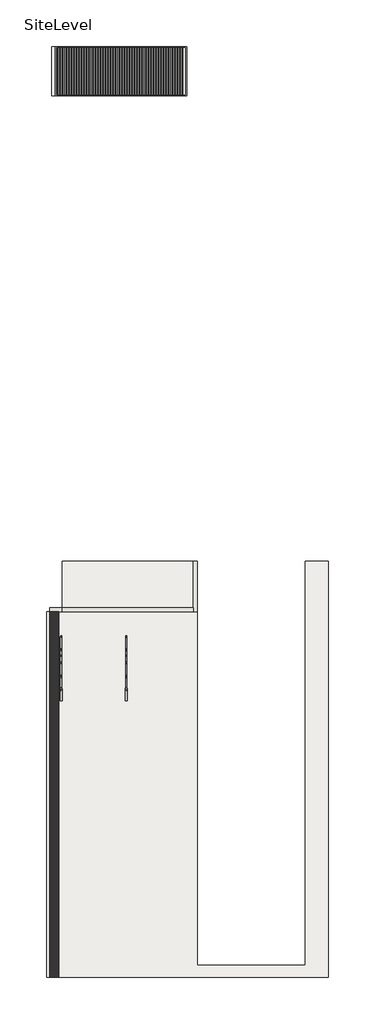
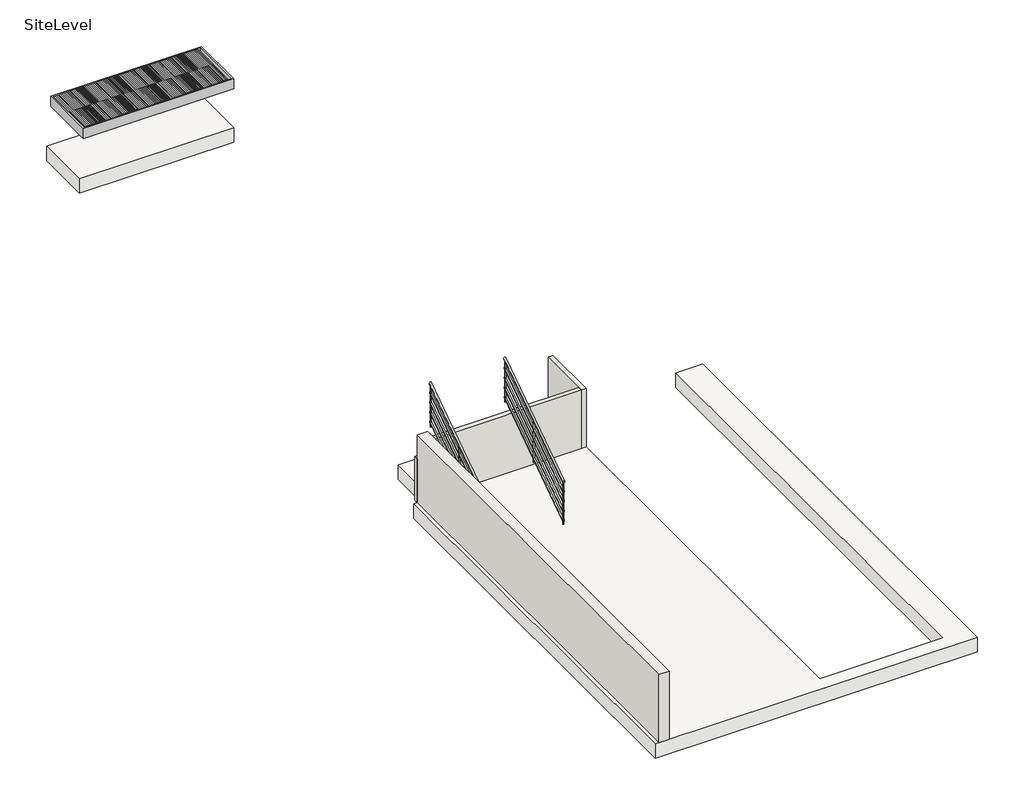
# One storey: 3 walls, 2 railings, 2 slabs, 1 proxy.
"""IFC4 building model written with IfcOpenShell, lengths in millimetres."""

from ifc_helpers import new_model, si_unit, frame, origin, place, context, project, spatial, polyline, outline, extrude, faceted_brep, transform, mapped, element, save
from components import griglia_griglia_b5ae9a58, railing_900mm_pipe_00ef5cd5, railing_900mm_pipe_c575d317

model = new_model("IFC4")

# Units and contexts
model_context = context("Model", 3, world=origin())
ifc_project = project(units=[si_unit("LENGTHUNIT", "METRE", prefix="MILLI")], contexts=[model_context])

# Site, building, storey
site = spatial("IfcSite", under=ifc_project)
building = spatial("IfcBuilding", under=site)
storey = spatial("IfcBuildingStorey", under=building, Name="SiteLevel", Elevation=-1500.0)

# Proxy
placement = place(None, origin())
griglia_griglia_shape = griglia_griglia_b5ae9a58(model_context)
element("IfcBuildingElementProxy", 1, Name="Griglia : Griglia", ObjectType="Griglia : Griglia", at=placement, inside=storey, context=model_context, shape_type="MappedRepresentation", body=[
    mapped(griglia_griglia_shape, transform((0.0, 0.0, 0.0), x_axis=(1.0, 0.0, 0.0), y_axis=(0.0, 1.0, 0.0), z_axis=(0.0, 0.0, 1.0))),
])

# Railings
railing_900mm_pipe_shape = railing_900mm_pipe_00ef5cd5(model_context)
element("IfcRailing", 2, ObjectType="900mm Pipe", at=placement, inside=storey, context=model_context, shape_type="MappedRepresentation", body=[
    mapped(railing_900mm_pipe_shape, transform((0.0, 0.0, 0.0), x_axis=(1.0, 0.0, 0.0), y_axis=(0.0, 1.0, 0.0), z_axis=(0.0, 0.0, 1.0))),
])
railing_900mm_pipe_2_shape = railing_900mm_pipe_c575d317(model_context)
element("IfcRailing", 3, ObjectType="900mm Pipe", at=placement, inside=storey, context=model_context, shape_type="MappedRepresentation", body=[
    mapped(railing_900mm_pipe_2_shape, transform((0.0, 0.0, 0.0), x_axis=(1.0, 0.0, 0.0), y_axis=(0.0, 1.0, 0.0), z_axis=(0.0, 0.0, 1.0))),
])

# Slabs
element("IfcSlab", 4, ObjectType="Generic 300mm", at=placement, inside=storey, context=model_context, shape_type="Brep", body=[
    faceted_brep([(-8133.3266822, -15042.8878347, -1800.0), (-8133.3266822, -6901.7671527, -1800.0), (-7783.3266822, -6901.7671527, -1800.0), (-7783.3266822, -5776.7671527, -1800.0), (-4979.3266822, -5776.7671527, -1800.0), (-4779.3266822, -5776.7671527, -1800.0), (-4779.3266822, -14776.7671527, -1800.0), (-2379.3266822, -14776.7671527, -1800.0), (-2379.3266822, -5776.7671527, -1800.0), (-2179.3266822, -5776.7671527, -1800.0), (-1861.8266822, -5776.7671527, -1800.0), (-1861.8266822, -15042.8878347, -1800.0), (-8133.3266822, -15042.8878347, -1500.0), (-1861.8266822, -15042.8878347, -1500.0), (-1861.8266822, -5776.7671527, -1500.0), (-2379.3266822, -5776.7671527, -1500.0), (-2379.3266822, -14776.7671527, -1500.0), (-4779.3266822, -14776.7671527, -1500.0), (-4779.3266822, -6901.7671527, -1500.0), (-4779.3266822, -5776.7671527, -1500.0), (-4869.3266822, -5776.7671527, -1500.0), (-7783.3266822, -5776.7671527, -1500.0), (-7783.3266822, -6901.7671527, -1500.0), (-8133.3266822, -6901.7671527, -1500.0)], [[[0, 1, 2, 3, 4, 5, 6, 7, 8, 9, 10, 11]], [[12, 13, 14, 15, 16, 17, 18, 19, 20, 21, 22, 23]], [[1, 0, 12, 23]], [[2, 1, 23, 22]], [[3, 2, 22, 21]], [[5, 4, 3, 21, 20, 19]], [[6, 5, 19, 18, 17]], [[7, 6, 17, 16]], [[8, 7, 16, 15]], [[10, 9, 8, 15, 14]], [[11, 10, 14, 13]], [[0, 11, 13, 12]]]),
])
element("IfcSlab", 5, ObjectType="Generic 300mm", at=placement, inside=storey, context=model_context, shape_type="SweptSolid", body=[
    extrude(outline(polyline([(-5011.8266822, 4573.2328473), (-8018.3266822, 4573.2328473), (-8018.3266822, 5673.2328473), (-5011.8266822, 5673.2328473), (-5011.8266822, 4573.2328473)])), frame((0.0, 0.0, -2100.0), z_axis=(0.0, 0.0, 1.0), x_axis=(1.0, 0.0, 0.0)), (0.0, 0.0, 1.0), 300.0),
])

# Walls
element("IfcWall", 6, ObjectType="Generic - 200mm", at=placement, inside=storey, context=model_context, shape_type="Brep", body=[
    faceted_brep([(-8061.8266822, -6901.7671527, -1500.0), (-8061.8266822, -15042.8878347, -1500.0), (-8061.8266822, -15042.8878347, -100.0), (-8061.8266822, -6901.7671527, -100.0), (-8061.8266822, -6901.7671527, -600.0), (-7861.8266822, -6901.7671527, -1500.0), (-7861.8266822, -6901.7671527, -100.0), (-7861.8266822, -15042.8878347, -100.0), (-7861.8266822, -15042.8878347, -1500.0)], [[[0, 1, 2, 3, 4]], [[5, 6, 7, 8]], [[1, 0, 5, 8]], [[2, 1, 8, 7]], [[3, 2, 7, 6]], [[0, 4, 3, 6, 5]]]),
])
element("IfcWall", 7, ObjectType="Generic - 90mm Brick", at=placement, inside=storey, context=model_context, shape_type="Brep", body=[
    faceted_brep([(-4869.3266822, -6901.7671527, -1500.0), (-4869.3266822, -6811.7671527, -1500.0), (-4869.3266822, -5776.7671527, -1500.0), (-4779.3266822, -5776.7671527, -1500.0), (-4779.3266822, -6901.7671527, -1500.0), (-4869.3266822, -6901.7671527, -300.0), (-4869.3266822, -6811.7671527, -300.0), (-4869.3266822, -5776.7671527, -300.0), (-4779.3266822, -5776.7671527, -300.0), (-4779.3266822, -6901.7671527, -300.0)], [[[0, 1, 2, 3, 4]], [[2, 1, 0, 5, 6, 7]], [[3, 8, 9, 4]], [[2, 7, 8, 3]], [[5, 0, 4, 9]], [[7, 6, 5, 9, 8]]]),
])
element("IfcWall", 8, ObjectType="Generic - 90mm Brick", at=placement, inside=storey, context=model_context, shape_type="Brep", body=[
    faceted_brep([(-4869.3266822, -6811.7671527, -1500.0), (-8061.8266822, -6811.7671527, -1500.0), (-8061.8266822, -6811.7671527, -600.0), (-7783.3266822, -6811.7671527, -600.0), (-7783.3266822, -6811.7671527, -300.0), (-4869.3266822, -6811.7671527, -300.0), (-4869.3266822, -6901.7671527, -1500.0), (-4869.3266822, -6901.7671527, -300.0), (-7783.3266822, -6901.7671527, -300.0), (-7783.3266822, -6901.7671527, -600.0), (-8061.8266822, -6901.7671527, -600.0), (-8061.8266822, -6901.7671527, -1500.0), (-7861.8266822, -6901.7671527, -1500.0)], [[[0, 1, 2, 3, 4, 5]], [[6, 7, 8, 9, 10, 11, 12]], [[1, 0, 6, 12, 11]], [[2, 1, 11, 10]], [[0, 5, 7, 6]], [[3, 2, 10, 9]], [[3, 9, 8, 4]], [[5, 4, 8, 7]]]),
])

save(model, "model.ifc")
